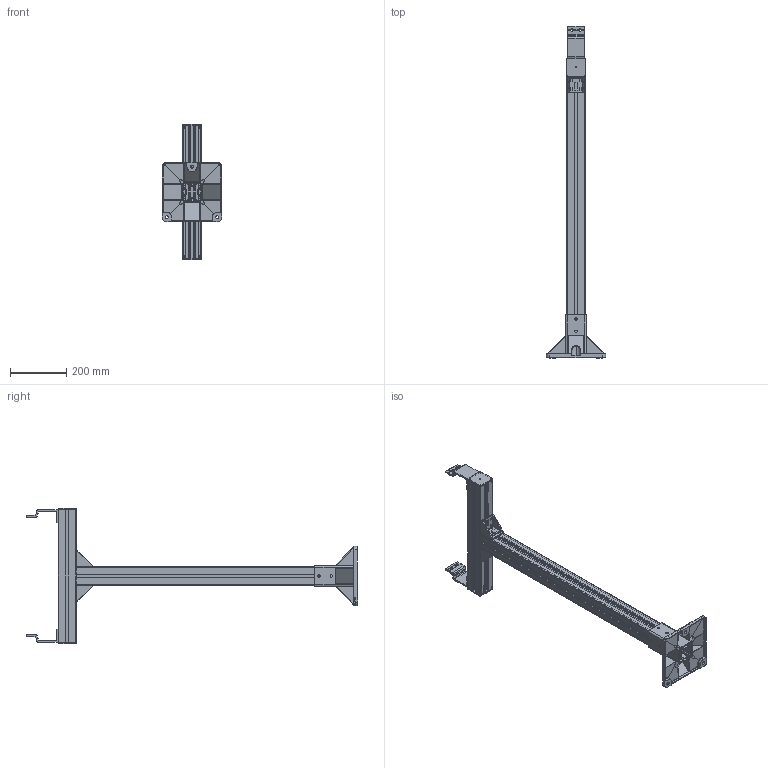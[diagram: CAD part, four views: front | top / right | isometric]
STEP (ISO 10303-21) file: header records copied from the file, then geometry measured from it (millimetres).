
FILE_DESCRIPTION (( 'STEP AP214' ), '1' );
FILE_NAME ('F2-1500-PC64.STEP', '2011-04-13T11:29:22', ( '.' ), ( '' ), 'SwSTEP 2.0', 'SolidWorks 2010', '' );
FILE_SCHEMA (( 'AUTOMOTIVE_DESIGN' ));
Length unit declared in the file: millimetre
Products named in the file (7): EC210-64-PC64; TC64-PC64_Tube vertical; FBFA 58B-PC64; FAHBS-60-PC64_Default; FBEC-64-PC64_Default; TC64-PC64_F2-1500-PC64; F2-1500-PC64
Assembly tree (9 placements, depth 2):
  F2-1500-PC64
    FAHBS-60-PC64_Default  x2
    FBFA 58B-PC64  x2
    EC210-64-PC64
    TC64-PC64_Tube vertical
    FBEC-64-PC64_Default  x2
    TC64-PC64_F2-1500-PC64
Bounding box: 210 x 1178 x 480 mm (x, y, z)
Volume: 1763416.4 mm3; surface area: 1438121 mm2
Topology: 9 solids, 9 shells, 1659 faces, 4644 edges, 3050 vertices
Faces by surface type: plane 896, cylinder 624, bspline 123, sphere 8, cone 4, torus 4
Entity records: 42027 total; most frequent: CARTESIAN_POINT 10635, ORIENTED_EDGE 6404, DIRECTION 5967, EDGE_CURVE 3202, VERTEX_POINT 2096, VECTOR 2091, LINE 2091, AXIS2_PLACEMENT_3D 1938
